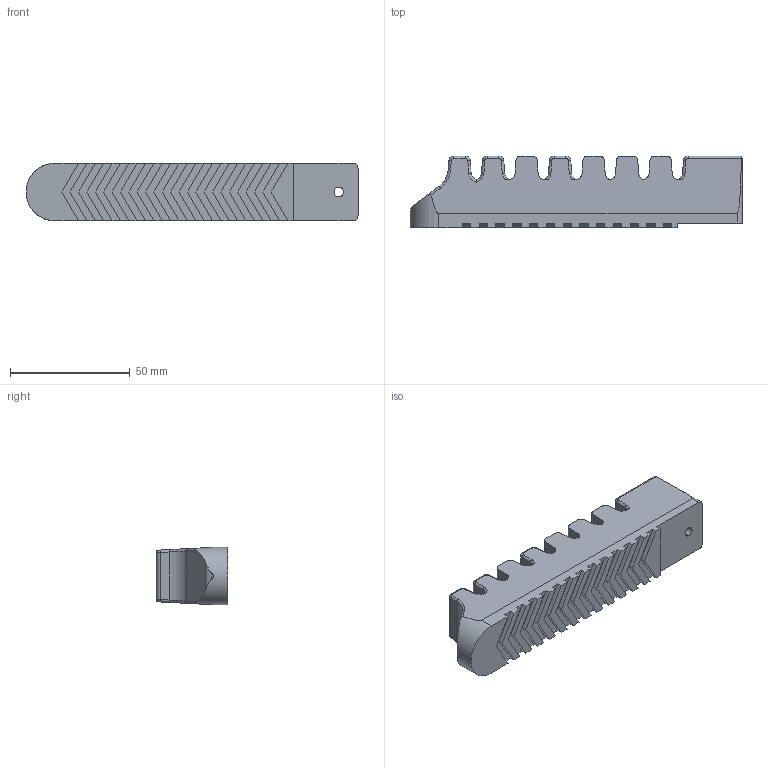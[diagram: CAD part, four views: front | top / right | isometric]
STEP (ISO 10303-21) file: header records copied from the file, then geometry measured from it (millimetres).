
FILE_DESCRIPTION (( 'STEP AP214' ), '1' );
FILE_NAME ('A8.STEP', '2019-12-04T07:39:16', ( '微软用户' ), ( '微软中国' ), 'SwSTEP 2.0', 'SolidWorks 2016', '' );
FILE_SCHEMA (( 'AUTOMOTIVE_DESIGN' ));
Length unit declared in the file: millimetre
Products named in the file (1): A8
Bounding box: 138.71 x 30 x 24 mm (x, y, z)
Volume: 78714.3 mm3; surface area: 18179 mm2
Topology: 1 solids, 1 shells, 193 faces, 533 edges, 342 vertices
Faces by surface type: plane 111, cylinder 58, bspline 24
Entity records: 9743 total; most frequent: CARTESIAN_POINT 3028, ORIENTED_EDGE 1066, DIRECTION 805, EDGE_CURVE 533, LINE 379, VECTOR 379, VERTEX_POINT 342, AXIS2_PLACEMENT_3D 213
